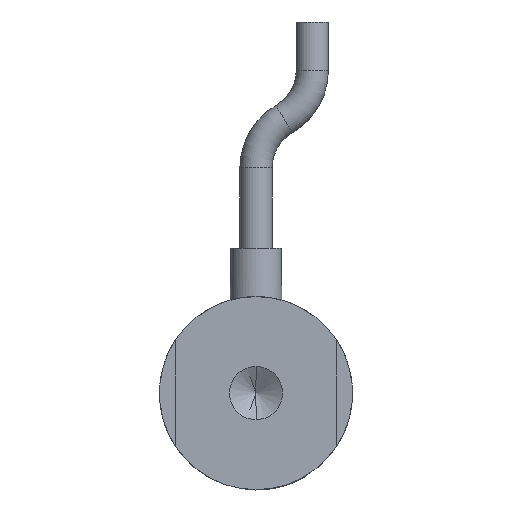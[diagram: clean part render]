
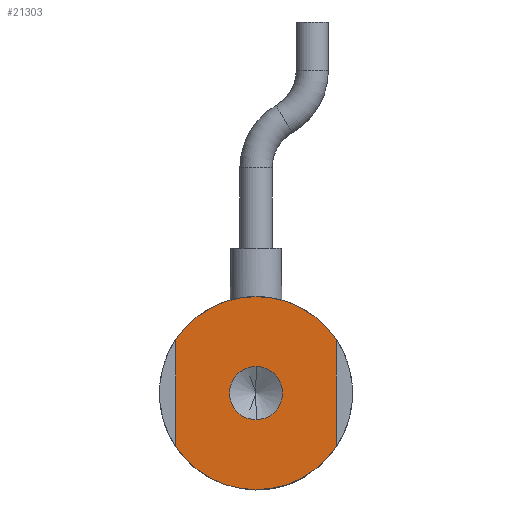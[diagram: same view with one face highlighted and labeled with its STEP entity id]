
A CAD part, front view. The second image highlights one B-rep face of the part: STEP entity #21303.
In plain terms, the highlighted planar face has unit normal (0, -1, 0).
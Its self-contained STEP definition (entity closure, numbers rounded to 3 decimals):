
#35 = CIRCLE ( 'NONE', #36144, 6. ) ;
#38 = AXIS2_PLACEMENT_3D ( 'NONE', #37216, #37810, #37772 ) ;
#133 = EDGE_CURVE ( 'NONE', #23054, #20429, #8487, .T. ) ;
#704 = EDGE_CURVE ( 'NONE', #14131, #9524, #6875, .T. ) ;
#706 = ORIENTED_EDGE ( 'NONE', *, *, #16917, .F. ) ;
#959 = AXIS2_PLACEMENT_3D ( 'NONE', #42680, #22850, #3010 ) ;
#1313 = LINE ( 'NONE', #36520, #36650 ) ;
#3010 = DIRECTION ( 'NONE',  ( 0., 0., 1. ) ) ;
#3200 = CARTESIAN_POINT ( 'NONE',  ( -5., 0., -3.317 ) ) ;
#4216 = CARTESIAN_POINT ( 'NONE',  ( 5., 0., -3.317 ) ) ;
#5633 = DIRECTION ( 'NONE',  ( 0., 1., 0. ) ) ;
#5908 = VECTOR ( 'NONE', #29083, 1000. ) ;
#5971 = VERTEX_POINT ( 'NONE', #21890 ) ;
#6875 = LINE ( 'NONE', #31936, #5908 ) ;
#8487 = CIRCLE ( 'NONE', #38, 1.65 ) ;
#8601 = AXIS2_PLACEMENT_3D ( 'NONE', #32668, #12772, #35998 ) ;
#9184 = AXIS2_PLACEMENT_3D ( 'NONE', #12685, #5633, #19364 ) ;
#9524 = VERTEX_POINT ( 'NONE', #22494 ) ;
#10288 = ORIENTED_EDGE ( 'NONE', *, *, #11570, .F. ) ;
#11014 = ORIENTED_EDGE ( 'NONE', *, *, #41433, .F. ) ;
#11100 = ORIENTED_EDGE ( 'NONE', *, *, #25163, .F. ) ;
#11488 = CIRCLE ( 'NONE', #19711, 6. ) ;
#11570 = EDGE_CURVE ( 'NONE', #20429, #23054, #23495, .T. ) ;
#12631 = DIRECTION ( 'NONE',  ( 0., 1., 0. ) ) ;
#12685 = CARTESIAN_POINT ( 'NONE',  ( 0., 0., 0. ) ) ;
#12772 = DIRECTION ( 'NONE',  ( 0., 1., 0. ) ) ;
#14131 = VERTEX_POINT ( 'NONE', #3200 ) ;
#14614 = VERTEX_POINT ( 'NONE', #39367 ) ;
#15133 = EDGE_LOOP ( 'NONE', ( #42693, #706, #16934, #20862, #11014, #11100 ) ) ;
#15988 = PLANE ( 'NONE',  #9184 ) ;
#16216 = EDGE_LOOP ( 'NONE', ( #26752, #10288 ) ) ;
#16358 = DIRECTION ( 'NONE',  ( 0., 0., -1. ) ) ;
#16367 = DIRECTION ( 'NONE',  ( 0., -1., 0. ) ) ;
#16404 = CARTESIAN_POINT ( 'NONE',  ( 0., 0., 0. ) ) ;
#16917 = EDGE_CURVE ( 'NONE', #37758, #14131, #11488, .T. ) ;
#16934 = ORIENTED_EDGE ( 'NONE', *, *, #36215, .F. ) ;
#19364 = DIRECTION ( 'NONE',  ( 0., 0., 1. ) ) ;
#19711 = AXIS2_PLACEMENT_3D ( 'NONE', #30604, #30596, #30560 ) ;
#20429 = VERTEX_POINT ( 'NONE', #37338 ) ;
#20441 = CIRCLE ( 'NONE', #8601, 6. ) ;
#20862 = ORIENTED_EDGE ( 'NONE', *, *, #31459, .F. ) ;
#21281 = CARTESIAN_POINT ( 'NONE',  ( 0., 0., -6. ) ) ;
#21303 = ADVANCED_FACE ( 'NONE', ( #36392, #34860 ), #15988, .F. ) ;
#21890 = CARTESIAN_POINT ( 'NONE',  ( 5., 0., 3.317 ) ) ;
#22494 = CARTESIAN_POINT ( 'NONE',  ( -5., 0., 3.317 ) ) ;
#22850 = DIRECTION ( 'NONE',  ( 0., 1., 0. ) ) ;
#23054 = VERTEX_POINT ( 'NONE', #42095 ) ;
#23495 = CIRCLE ( 'NONE', #27555, 1.65 ) ;
#23856 = CIRCLE ( 'NONE', #959, 6. ) ;
#25163 = EDGE_CURVE ( 'NONE', #9524, #14614, #23856, .T. ) ;
#26752 = ORIENTED_EDGE ( 'NONE', *, *, #133, .F. ) ;
#27555 = AXIS2_PLACEMENT_3D ( 'NONE', #16404, #16367, #16358 ) ;
#29083 = DIRECTION ( 'NONE',  ( 0., 0., 1. ) ) ;
#30560 = DIRECTION ( 'NONE',  ( 0., 0., 1. ) ) ;
#30596 = DIRECTION ( 'NONE',  ( 0., 1., 0. ) ) ;
#30604 = CARTESIAN_POINT ( 'NONE',  ( 0., 0., 0. ) ) ;
#31459 = EDGE_CURVE ( 'NONE', #5971, #37614, #1313, .T. ) ;
#31936 = CARTESIAN_POINT ( 'NONE',  ( -5., 0., 0. ) ) ;
#32525 = CARTESIAN_POINT ( 'NONE',  ( 0., 0., 0. ) ) ;
#32668 = CARTESIAN_POINT ( 'NONE',  ( 0., 0., 0. ) ) ;
#34860 = FACE_OUTER_BOUND ( 'NONE', #15133, .T. ) ;
#35850 = DIRECTION ( 'NONE',  ( 0., 0., 1. ) ) ;
#35998 = DIRECTION ( 'NONE',  ( 0., 0., 1. ) ) ;
#36144 = AXIS2_PLACEMENT_3D ( 'NONE', #32525, #12631, #35850 ) ;
#36215 = EDGE_CURVE ( 'NONE', #37614, #37758, #20441, .T. ) ;
#36392 = FACE_BOUND ( 'NONE', #16216, .T. ) ;
#36520 = CARTESIAN_POINT ( 'NONE',  ( 5., 0., 0. ) ) ;
#36650 = VECTOR ( 'NONE', #39848, 1000. ) ;
#37216 = CARTESIAN_POINT ( 'NONE',  ( 0., 0., 0. ) ) ;
#37338 = CARTESIAN_POINT ( 'NONE',  ( 0., 0., 1.65 ) ) ;
#37614 = VERTEX_POINT ( 'NONE', #4216 ) ;
#37758 = VERTEX_POINT ( 'NONE', #21281 ) ;
#37772 = DIRECTION ( 'NONE',  ( 0., 0., -1. ) ) ;
#37810 = DIRECTION ( 'NONE',  ( 0., -1., 0. ) ) ;
#39367 = CARTESIAN_POINT ( 'NONE',  ( 0., 0., 6. ) ) ;
#39848 = DIRECTION ( 'NONE',  ( 0., 0., -1. ) ) ;
#41433 = EDGE_CURVE ( 'NONE', #14614, #5971, #35, .T. ) ;
#42095 = CARTESIAN_POINT ( 'NONE',  ( 0., 0., -1.65 ) ) ;
#42680 = CARTESIAN_POINT ( 'NONE',  ( 0., 0., 0. ) ) ;
#42693 = ORIENTED_EDGE ( 'NONE', *, *, #704, .F. ) ;
